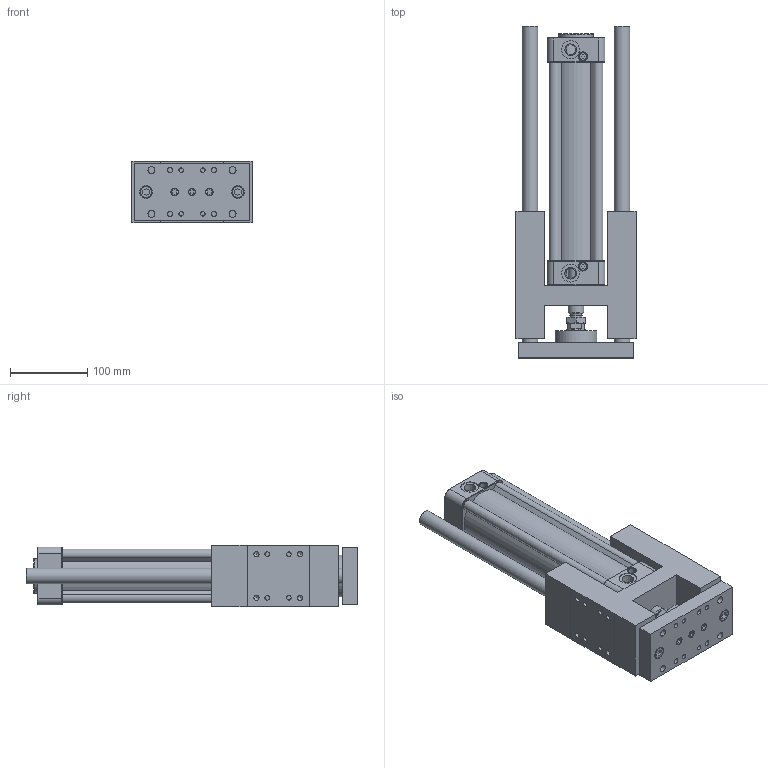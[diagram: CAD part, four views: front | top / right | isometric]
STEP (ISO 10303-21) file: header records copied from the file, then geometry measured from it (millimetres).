
FILE_DESCRIPTION((''),'2;1');
FILE_NAME('I:\3D電子目錄\氣缸\GHB(U)\GHB(U)\GHB(U)63\GHB(U)63x200.stp','2007-10-22T09:02:51',('Administrator'),(''),'Autodesk Inventor 11','Autodesk Inventor 11','');
FILE_SCHEMA(('AUTOMOTIVE_DESIGN { 1 0 10303 214 1 1 1 1 }'));
Length unit declared in the file: millimetre
Products named in the file (1): GHB(U)63
Bounding box: 156 x 430 x 80 mm (x, y, z)
Volume: 2044372.4 mm3; surface area: 417471.8 mm2
Topology: 1 solids, 13 shells, 789 faces, 1754 edges, 1088 vertices
Faces by surface type: plane 303, bspline 237, cylinder 159, cone 88, torus 2
Full cylindrical faces by diameter (mm): 2.5 x2, 6 x4, 6.647 x4, 6.7 x2, 6.75 x4, 7.25 x4, 7.4 x4, 7.5 x2, 8.5 x9, 9 x2, 9.8 x4, 10 x5, 11.5 x1, 11.9 x1, 12 x3, 13 x4, 14 x8, 14.5 x2, 16 x3, 20 x4, 23 x3, 25 x1, 26 x2, 45 x1, 54 x1, 63 x1
Entity records: 22867 total; most frequent: CARTESIAN_POINT 7086, DIRECTION 3132, ORIENTED_EDGE 3076, EDGE_CURVE 1538, AXIS2_PLACEMENT_3D 1207, EDGE_LOOP 1075, VERTEX_POINT 1047, FACE_OUTER_BOUND 789
